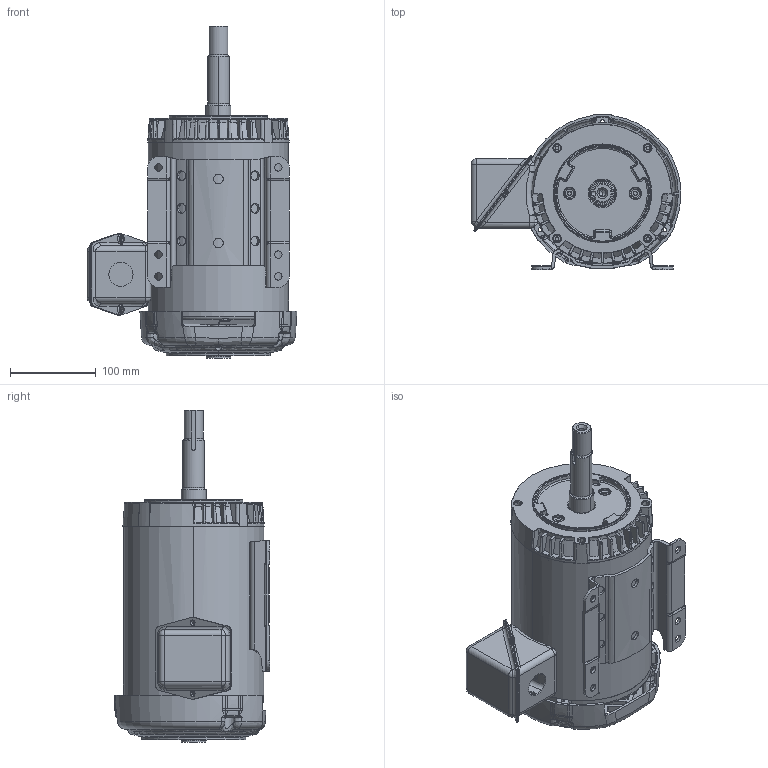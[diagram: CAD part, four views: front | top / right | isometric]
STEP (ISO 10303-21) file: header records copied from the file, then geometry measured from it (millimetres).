
FILE_DESCRIPTION((''),'2;1');
FILE_NAME('TEFC_MODELS_ASM','2015-07-07T',('NMC2342'),('Nidec Motor Corporation'),'PRO/ENGINEER BY PARAMETRIC TECHNOLOGY CORPORATION, 2013150','PRO/ENGINEER BY PARAMETRIC TECHNOLOGY CORPORATION, 2013150','');
FILE_SCHEMA(('CONFIG_CONTROL_DESIGN'));
Length unit declared in the file: inch
Products named in the file (15): FRAME; 0387280-BKT_AF0; I20258935000_AF0; 0387281_ASM; C18747690_ENCL_AF1; C18747690_INS6_AF1; S33749494_05_ASM; 0345786; 0343740; 0399601; 0912536; 0299919; PRT0002; 0435120; TEFC_MODELS_ASM
Assembly tree (14 placements, depth 3):
  TEFC_MODELS_ASM
    FRAME
    0387281_ASM
      0387280-BKT_AF0
      I20258935000_AF0
    S33749494_05_ASM
      C18747690_ENCL_AF1
      C18747690_INS6_AF1
    0345786
    0343740
    0399601
    0912536
    0299919
    PRT0002
    0435120
Bounding box: 244.71 x 181.54 x 387.23 mm (x, y, z)
Volume: 978532.3 mm3; surface area: 632316.4 mm2
Topology: 14 solids, 14 shells, 2812 faces, 6984 edges, 4198 vertices
Faces by surface type: bspline 1011, plane 548, cylinder 536, torus 349, cone 278, sphere 88, revolution 2
Entity records: 126429 total; most frequent: CARTESIAN_POINT 66789, ORIENTED_EDGE 13940, DIRECTION 10589, EDGE_CURVE 6970, AXIS2_PLACEMENT_3D 4540, VERTEX_POINT 4198, EDGE_LOOP 2974, FACE_OUTER_BOUND 2812
